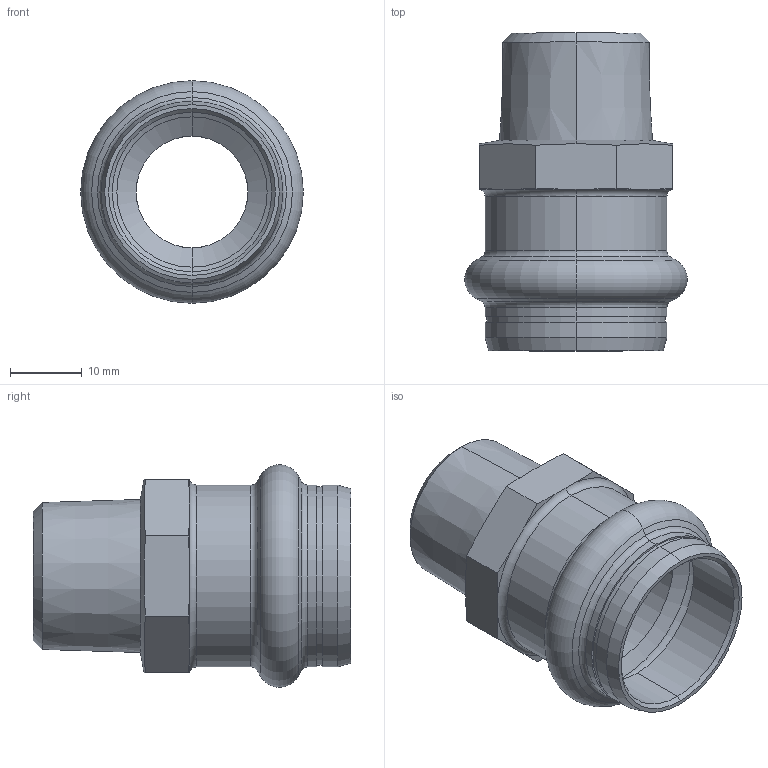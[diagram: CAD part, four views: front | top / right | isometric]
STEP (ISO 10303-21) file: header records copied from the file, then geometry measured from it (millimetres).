
FILE_DESCRIPTION (( 'STEP AP203' ), '1' );
FILE_NAME ('SP4243G Ø22 1-2.STEP', '2017-04-26T07:45:39', ( '' ), ( '' ), 'SwSTEP 2.0', 'SolidWorks 2016', '' );
FILE_SCHEMA (( 'CONFIG_CONTROL_DESIGN' ));
Length unit declared in the file: millimetre
Products named in the file (1): SP4243G Ø22 1-2
Bounding box: 31.1 x 44.4 x 31.1 mm (x, y, z)
Volume: 7431.8 mm3; surface area: 7325.5 mm2
Topology: 1 solids, 1 shells, 71 faces, 160 edges, 94 vertices
Faces by surface type: cone 30, cylinder 18, plane 13, torus 10
Entity records: 2131 total; most frequent: CARTESIAN_POINT 482, DIRECTION 344, ORIENTED_EDGE 320, EDGE_CURVE 160, AXIS2_PLACEMENT_3D 148, VERTEX_POINT 94, EDGE_LOOP 76, CIRCLE 76
